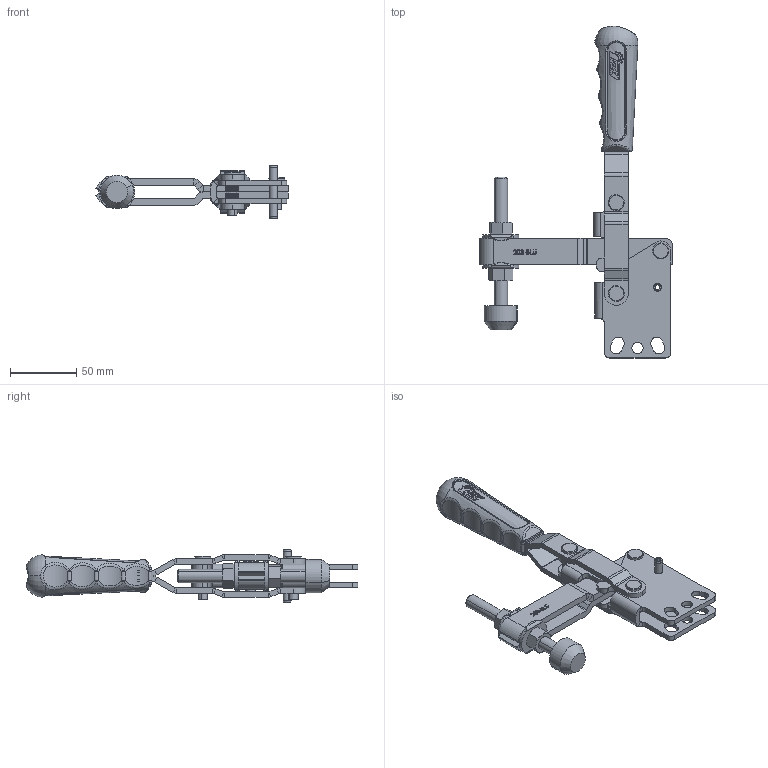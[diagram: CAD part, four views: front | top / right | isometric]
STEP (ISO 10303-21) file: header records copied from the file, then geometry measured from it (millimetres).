
FILE_DESCRIPTION (( 'STEP AP214' ), '1' );
FILE_NAME ('203_BU.STEP', '2024-09-09T16:30:31', ( '' ), ( '' ), 'SwSTEP 2.0', 'SolidWorks 2023', '' );
FILE_SCHEMA (( 'AUTOMOTIVE_DESIGN' ));
Length unit declared in the file: millimetre
Products named in the file (16): FZK_203_B_06_00; FZK_203_B_03A_00; M10 PUL DIN 125; Ø6x40 YARIKLI PİM; M10 A.K. SOMUN ; FZK_203_B_07_00; FZK_203_BU_02_00; FZK_203_BU_01_00; M10x100 A.K.B; M10 PABUÇ; FZK_203_B_01_00_YENI; FZK_203_B_05_00; 203_BU; TTMK_03_00; FZK_203_B_04_00; FZK_203_B_03_00
Assembly tree (21 placements, depth 3):
  203_BU
    TTMK_03_00
    FZK_203_BU_02_00
    FZK_203_B_01_00_YENI
    FZK_203_B_03_00
      FZK_203_B_03A_00  x2
    FZK_203_B_07_00  x2
    M10x100 A.K.B
    FZK_203_B_04_00  x2
    M10 PUL DIN 125  x2
    FZK_203_BU_01_00
    FZK_203_B_06_00  x2
    FZK_203_B_05_00
    M10 PABUÇ
    M10 A.K. SOMUN   x2
    Ø6x40 YARIKLI PİM
Bounding box: 144.57 x 249.67 x 40 mm (x, y, z)
Volume: 165196.5 mm3; surface area: 88467.2 mm2
Topology: 20 solids, 20 shells, 1503 faces, 3995 edges, 2548 vertices
Faces by surface type: cylinder 843, plane 278, bspline 270, cone 86, sphere 20, torus 6
Entity records: 53358 total; most frequent: CARTESIAN_POINT 30082, ORIENTED_EDGE 5518, DIRECTION 3464, EDGE_CURVE 2759, VERTEX_POINT 1766, B_SPLINE_CURVE_WITH_KNOTS 1358, AXIS2_PLACEMENT_3D 1270, EDGE_LOOP 1131
